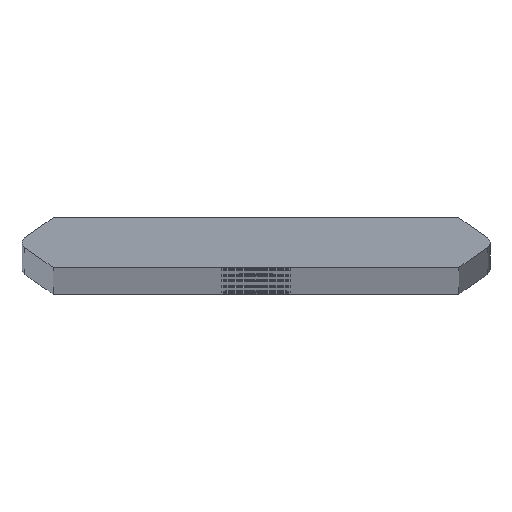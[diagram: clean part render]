
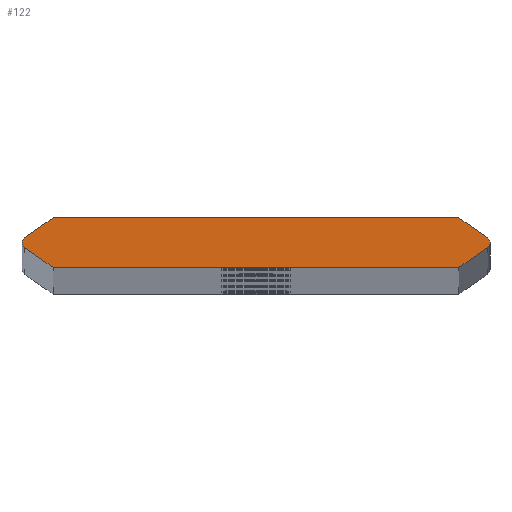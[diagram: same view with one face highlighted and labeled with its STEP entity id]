
A CAD part, top view. The second image highlights one B-rep face of the part: STEP entity #122.
In plain terms, the highlighted planar face has unit normal (0, 0, 1).
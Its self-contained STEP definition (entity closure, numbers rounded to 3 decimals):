
#122=ADVANCED_FACE('',(#226),#227,.T.);
#226=FACE_OUTER_BOUND('',#382,.T.);
#227=PLANE('',#383);
#382=EDGE_LOOP('',(#773,#774,#775,#776,#777,#778,#779,#780,#781,#782));
#383=AXIS2_PLACEMENT_3D('',#783,#784,#785);
#773=ORIENTED_EDGE('',*,*,#941,.T.);
#774=ORIENTED_EDGE('',*,*,#1078,.T.);
#775=ORIENTED_EDGE('',*,*,#1079,.F.);
#776=ORIENTED_EDGE('',*,*,#1080,.F.);
#777=ORIENTED_EDGE('',*,*,#1081,.F.);
#778=ORIENTED_EDGE('',*,*,#937,.T.);
#779=ORIENTED_EDGE('',*,*,#1082,.T.);
#780=ORIENTED_EDGE('',*,*,#1083,.F.);
#781=ORIENTED_EDGE('',*,*,#1084,.F.);
#782=ORIENTED_EDGE('',*,*,#1085,.F.);
#783=CARTESIAN_POINT('',(0.,0.,1976.0));
#784=DIRECTION('',(0.0,0.0,1.0));
#785=DIRECTION('',(1.0,0.0,0.0));
#937=EDGE_CURVE('',#1101,#1098,#1102,.T.);
#941=EDGE_CURVE('',#1109,#1106,#1110,.T.);
#1078=EDGE_CURVE('',#1106,#1336,#1338,.T.);
#1079=EDGE_CURVE('',#1339,#1336,#1340,.T.);
#1080=EDGE_CURVE('',#1341,#1339,#1342,.T.);
#1081=EDGE_CURVE('',#1101,#1341,#1343,.T.);
#1082=EDGE_CURVE('',#1098,#1344,#1345,.T.);
#1083=EDGE_CURVE('',#1346,#1344,#1347,.T.);
#1084=EDGE_CURVE('',#1348,#1346,#1349,.T.);
#1085=EDGE_CURVE('',#1109,#1348,#1350,.T.);
#1098=VERTEX_POINT('',#1368);
#1101=VERTEX_POINT('',#1372);
#1102=CIRCLE('',#1373,0.76);
#1106=VERTEX_POINT('',#1378);
#1109=VERTEX_POINT('',#1382);
#1110=CIRCLE('',#1383,0.76);
#1336=VERTEX_POINT('',#1654);
#1338=CIRCLE('',#1657,0.76);
#1339=VERTEX_POINT('',#1658);
#1340=LINE('',#1659,#1660);
#1341=VERTEX_POINT('',#1661);
#1342=LINE('',#1662,#1663);
#1343=LINE('',#1664,#1665);
#1344=VERTEX_POINT('',#1666);
#1345=CIRCLE('',#1667,0.76);
#1346=VERTEX_POINT('',#1668);
#1347=LINE('',#1669,#1670);
#1348=VERTEX_POINT('',#1671);
#1349=LINE('',#1672,#1673);
#1350=LINE('',#1674,#1675);
#1368=CARTESIAN_POINT('',(30.225,0.,1976.0));
#1372=CARTESIAN_POINT('',(29.904,-0.62,1976.0));
#1373=AXIS2_PLACEMENT_3D('',#1705,#1706,#1707);
#1378=CARTESIAN_POINT('',(-30.225,0.,1976.0));
#1382=CARTESIAN_POINT('',(-29.904,0.62,1976.0));
#1383=AXIS2_PLACEMENT_3D('',#1713,#1714,#1715);
#1654=CARTESIAN_POINT('',(-29.904,-0.62,1976.0));
#1657=AXIS2_PLACEMENT_3D('',#2032,#2033,#2034);
#1658=CARTESIAN_POINT('',(-26.206,-3.21,1976.0));
#1659=CARTESIAN_POINT('',(-30.79,0.,1976.0));
#1660=VECTOR('',#2035,1.0);
#1661=CARTESIAN_POINT('',(26.206,-3.21,1976.0));
#1662=CARTESIAN_POINT('',(26.206,-3.21,1976.0));
#1663=VECTOR('',#2036,1.0);
#1664=CARTESIAN_POINT('',(30.79,0.0,1976.0));
#1665=VECTOR('',#2037,1.0);
#1666=CARTESIAN_POINT('',(29.904,0.62,1976.0));
#1667=AXIS2_PLACEMENT_3D('',#2038,#2039,#2040);
#1668=CARTESIAN_POINT('',(26.206,3.21,1976.0));
#1669=CARTESIAN_POINT('',(30.79,0.0,1976.0));
#1670=VECTOR('',#2041,1.0);
#1671=CARTESIAN_POINT('',(-26.206,3.21,1976.0));
#1672=CARTESIAN_POINT('',(-26.206,3.21,1976.0));
#1673=VECTOR('',#2042,1.0);
#1674=CARTESIAN_POINT('',(-30.79,0.,1976.0));
#1675=VECTOR('',#2043,1.0);
#1705=CARTESIAN_POINT('',(29.465,0.0,1976.0));
#1706=DIRECTION('',(0.0,0.0,1.0));
#1707=DIRECTION('',(1.0,0.0,0.0));
#1713=CARTESIAN_POINT('',(-29.465,0.,1976.0));
#1714=DIRECTION('',(0.0,0.0,1.0));
#1715=DIRECTION('',(-1.0,0.,0.0));
#2032=CARTESIAN_POINT('',(-29.465,0.,1976.0));
#2033=DIRECTION('',(0.0,0.0,1.0));
#2034=DIRECTION('',(-1.0,0.,0.0));
#2035=DIRECTION('',(-0.819,0.574,0.0));
#2036=DIRECTION('',(-1.0,0.,0.0));
#2037=DIRECTION('',(-0.819,-0.574,0.0));
#2038=CARTESIAN_POINT('',(29.465,0.0,1976.0));
#2039=DIRECTION('',(0.0,0.0,1.0));
#2040=DIRECTION('',(1.0,0.0,0.0));
#2041=DIRECTION('',(0.819,-0.574,0.0));
#2042=DIRECTION('',(1.0,0.,0.0));
#2043=DIRECTION('',(0.819,0.574,0.0));
